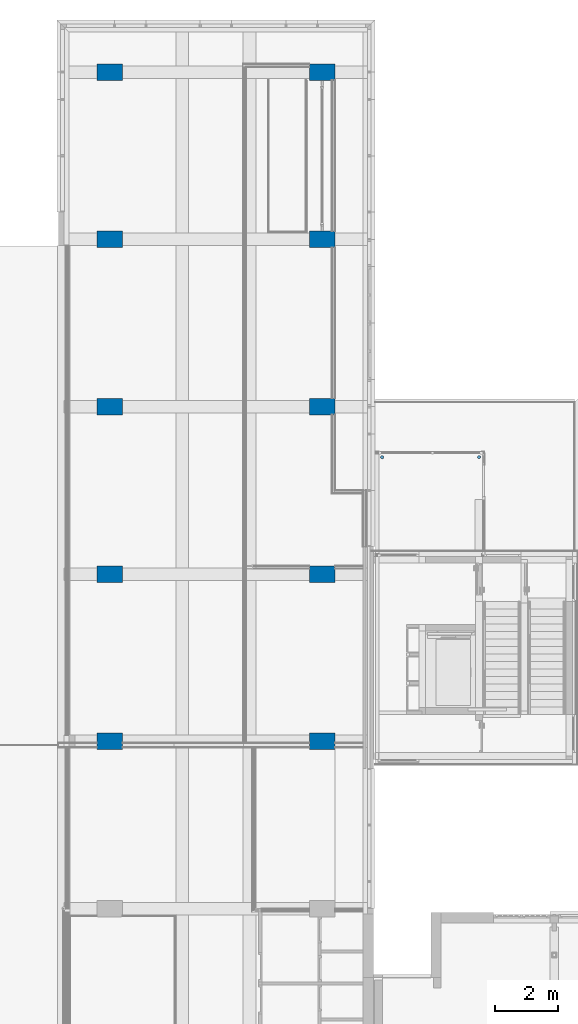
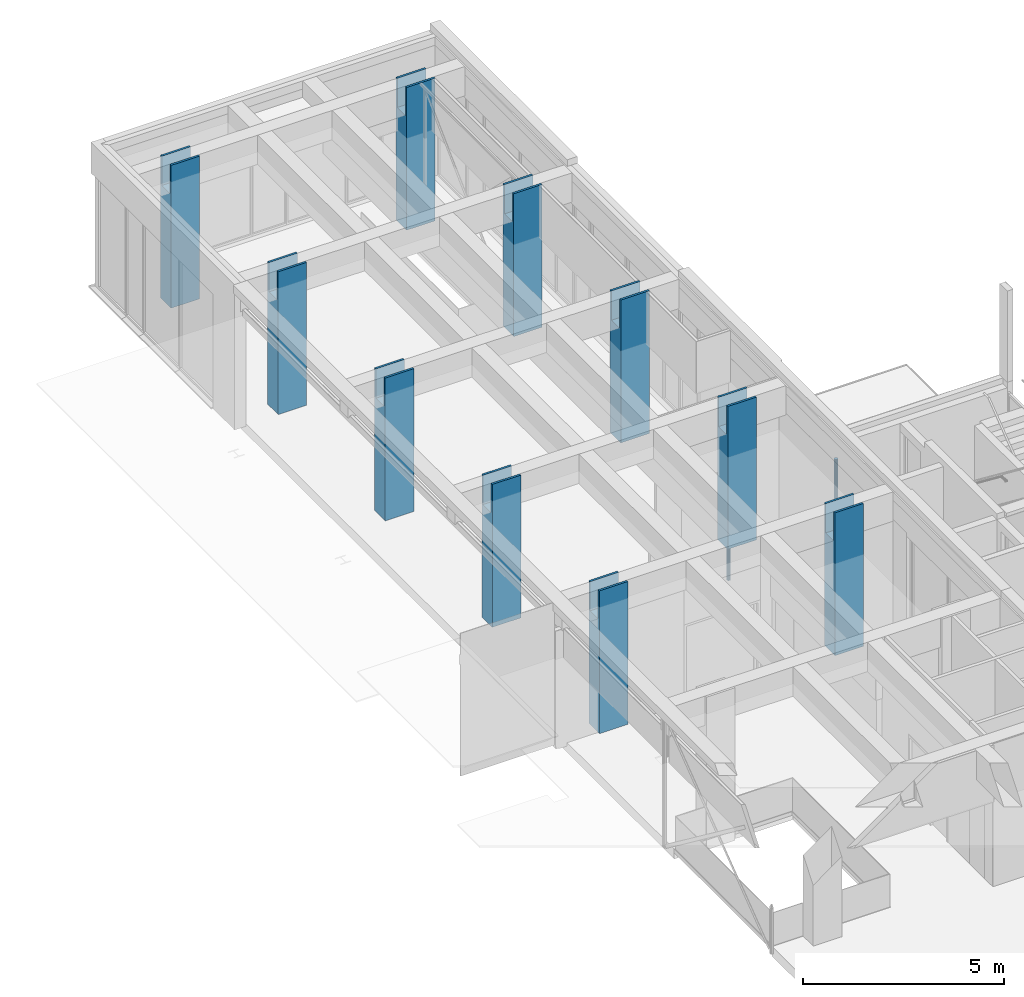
# One storey, part 19 of 117: 12 columns.
"""IFC2X3 building model written with IfcOpenShell, lengths in millimetres."""

from ifc_helpers import new_model, entity, si_unit, converted_unit, derived_unit, money_unit, direction, frame, origin_with_axes, place, context, subcontext, project, spatial, faceted_brep, material, type_object, element, save


model = new_model("IFC2X3")

# Units and contexts
model_context = context("Model", 3, precision=0.01, world=origin_with_axes(), true_north=direction((0.0, 1.0)))
body_context = subcontext(model_context, "Body", "Model", "MODEL_VIEW")
ifc_project = project(units=[si_unit("LENGTHUNIT", "METRE", prefix="MILLI"), si_unit("AREAUNIT", "SQUARE_METRE"), si_unit("VOLUMEUNIT", "CUBIC_METRE"), converted_unit("PLANEANGLEUNIT", "DEGREE", entity("IfcPlaneAngleMeasure", 0.0174532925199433), si_unit("PLANEANGLEUNIT", "RADIAN"), dimensions=[0, 0, 0, 0, 0, 0, 0]), money_unit("EUR"), converted_unit("TIMEUNIT", "Year", entity("IfcTimeMeasure", 31557600.0), si_unit("TIMEUNIT", "SECOND"), dimensions=[0, 0, 1, 0, 0, 0, 0]), si_unit("MASSUNIT", "GRAM", prefix="KILO"), si_unit("THERMODYNAMICTEMPERATUREUNIT", "DEGREE_CELSIUS"), si_unit("LUMINOUSINTENSITYUNIT", "LUMEN"), si_unit("ENERGYUNIT", "JOULE", prefix="MEGA"), derived_unit("THERMALCONDUCTANCEUNIT", [(si_unit("POWERUNIT", "WATT"), 1), (si_unit("LENGTHUNIT", "METRE"), -1), (si_unit("THERMODYNAMICTEMPERATUREUNIT", "KELVIN"), -1)]), derived_unit("SPECIFICHEATCAPACITYUNIT", [(si_unit("ENERGYUNIT", "JOULE"), 1), (si_unit("MASSUNIT", "GRAM", prefix="KILO"), -1), (si_unit("THERMODYNAMICTEMPERATUREUNIT", "KELVIN"), -1)]), derived_unit("MASSDENSITYUNIT", [(si_unit("MASSUNIT", "GRAM", prefix="KILO"), 1), (si_unit("VOLUMEUNIT", "CUBIC_METRE"), -1)])], contexts=[model_context])

# Site, building, storey
site_placement = place(None, origin_with_axes())
site = spatial("IfcSite", under=ifc_project, at=site_placement, Name="Site", CompositionType="ELEMENT")
building_placement = place(site_placement, origin_with_axes())
building = spatial("IfcBuilding", under=site, at=building_placement, Name="Naam gebouw", CompositionType="ELEMENT")
storey_placement = place(building_placement, frame((0.0, 0.0, 4150.0), z_axis=(0.0, 0.0, 1.0), x_axis=(1.0, 0.0, 0.0)))
storey = spatial("IfcBuildingStorey", under=building, at=storey_placement, Name="1e verdieping N", CompositionType="ELEMENT", Elevation=4150.0)

# Columns
ifc_material_1 = material(Name="ALG - CONSTRUCTIEF")
column_type_1 = type_object("IfcColumnType", Name="ALG - CONSTRUCTIEF 525 x 820", PredefinedType="COLUMN")
column_1_placement = place(storey_placement, frame((21836.0, 54605.9124251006, -99.99999999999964), z_axis=(0.0, 0.0, 1.0), x_axis=(0.0, -1.0, 0.0)))
element("IfcColumn", 1, at=column_1_placement, inside=storey, type_object=column_type_1, material=ifc_material_1, Name="_Kolom-x", ObjectType="COLUMN", context=body_context, shape_type="Brep", body=[
    faceted_brep([(-262.5000000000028, -410.0000000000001, 4439.999999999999), (-200.0000000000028, -410.0000000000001, 4439.999999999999), (-200.0000000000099, 410.0000000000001, 4439.999999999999), (-262.5000000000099, 410.0000000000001, 4439.999999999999), (200.0000000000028, -410.0000000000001, 3550.0), (-200.0000000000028, -410.0000000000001, 3550.0), (-262.5000000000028, -410.0000000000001, 99.99999999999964), (262.5000000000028, -410.0000000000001, 99.99999999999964), (262.5000000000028, -410.0000000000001, 4439.999999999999), (200.0000000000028, -410.0000000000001, 4439.999999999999), (-200.0000000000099, 410.0000000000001, 3550.0), (199.9999999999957, 410.0000000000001, 3550.0), (199.9999999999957, 410.0000000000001, 4439.999999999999), (262.4999999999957, 410.0000000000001, 4439.999999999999), (262.4999999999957, 410.0000000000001, 99.99999999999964), (-262.5000000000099, 410.0000000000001, 99.99999999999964)], [[[0, 1, 2, 3]], [[4, 5, 1, 0, 6, 7, 8, 9]], [[5, 10, 2, 1]], [[10, 11, 12, 13, 14, 15, 3, 2]], [[0, 3, 15, 6]], [[4, 11, 10, 5]], [[14, 7, 6, 15]], [[13, 8, 7, 14]], [[13, 12, 9, 8]], [[4, 9, 12, 11]]]),
])
column_2_placement = place(storey_placement, frame((28605.99999999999, 54605.9124251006, -99.99999999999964), z_axis=(0.0, 0.0, 1.0), x_axis=(0.0, -1.0, 0.0)))
element("IfcColumn", 2, at=column_2_placement, inside=storey, type_object=column_type_1, material=ifc_material_1, Name="_Kolom-x", ObjectType="COLUMN", context=body_context, shape_type="Brep", body=[
    faceted_brep([(-262.5000000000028, -410.0000000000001, 4439.999999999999), (-200.0000000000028, -410.0000000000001, 4439.999999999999), (-200.0000000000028, 410.0000000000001, 4439.999999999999), (-262.5000000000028, 410.0000000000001, 4439.999999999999), (200.0000000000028, -410.0000000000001, 3550.0), (-200.0000000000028, -410.0000000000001, 3550.0), (-262.5000000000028, -410.0000000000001, 99.99999999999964), (262.5000000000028, -410.0000000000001, 99.99999999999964), (262.5000000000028, -410.0000000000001, 4439.999999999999), (200.0000000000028, -410.0000000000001, 4439.999999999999), (-200.0000000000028, 410.0000000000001, 3550.0), (200.0000000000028, 410.0000000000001, 3550.0), (200.0000000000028, 410.0000000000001, 4439.999999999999), (262.5000000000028, 410.0000000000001, 4439.999999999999), (262.5000000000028, 410.0000000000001, 99.99999999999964), (-262.5000000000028, 410.0000000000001, 99.99999999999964)], [[[0, 1, 2, 3]], [[4, 5, 1, 0, 6, 7, 8, 9]], [[5, 10, 2, 1]], [[10, 11, 12, 13, 14, 15, 3, 2]], [[0, 3, 15, 6]], [[4, 11, 10, 5]], [[14, 7, 6, 15]], [[13, 8, 7, 14]], [[13, 12, 9, 8]], [[4, 9, 12, 11]]]),
])
column_3_placement = place(storey_placement, frame((21836.0, 49275.9124251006, -99.99999999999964), z_axis=(0.0, 0.0, 1.0), x_axis=(0.0, -1.0, 0.0)))
element("IfcColumn", 3, at=column_3_placement, inside=storey, type_object=column_type_1, material=ifc_material_1, Name="_Kolom-x", ObjectType="COLUMN", context=body_context, shape_type="Brep", body=[
    faceted_brep([(-262.5000000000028, -410.0000000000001, 4439.999999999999), (-200.0000000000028, -410.0000000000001, 4439.999999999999), (-200.0000000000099, 410.0000000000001, 4439.999999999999), (-262.5000000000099, 410.0000000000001, 4439.999999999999), (200.0000000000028, -410.0000000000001, 3550.0), (-200.0000000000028, -410.0000000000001, 3550.0), (-262.5000000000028, -410.0000000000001, 99.99999999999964), (262.5000000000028, -410.0000000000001, 99.99999999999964), (262.5000000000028, -410.0000000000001, 4439.999999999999), (199.9999535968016, -410.0000000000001, 4439.999999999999), (-200.0000000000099, 410.0000000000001, 3550.0), (199.9999999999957, 410.0000000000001, 3550.0), (199.9999580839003, 410.0000000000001, 4439.999999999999), (262.4999999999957, 410.0000000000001, 4439.999999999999), (262.4999999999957, 410.0000000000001, 99.99999999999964), (-262.5000000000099, 410.0000000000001, 99.99999999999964)], [[[0, 1, 2, 3]], [[4, 5, 1, 0, 6, 7, 8, 9]], [[5, 10, 2, 1]], [[10, 11, 12, 13, 14, 15, 3, 2]], [[0, 3, 15, 6]], [[4, 11, 10, 5]], [[14, 7, 6, 15]], [[13, 8, 7, 14]], [[13, 12, 9, 8]], [[4, 9, 12, 11]]]),
])
column_4_placement = place(storey_placement, frame((21836.0, 38615.91242510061, -99.99999999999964), z_axis=(0.0, 0.0, 1.0), x_axis=(0.0, -1.0, 0.0)))
element("IfcColumn", 4, at=column_4_placement, inside=storey, type_object=column_type_1, material=ifc_material_1, Name="_Kolom-x", ObjectType="COLUMN", context=body_context, shape_type="Brep", body=[
    faceted_brep([(-262.5000000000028, -410.0000000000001, 4439.999999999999), (-200.0000000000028, -410.0000000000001, 4439.999999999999), (-200.0000000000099, 410.0000000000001, 4439.999999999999), (-262.5000000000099, 410.0000000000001, 4439.999999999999), (200.0000000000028, -410.0000000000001, 3550.0), (-200.0000000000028, -410.0000000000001, 3550.0), (-262.5000000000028, -410.0000000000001, 99.99999999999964), (262.5000000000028, -410.0000000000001, 99.99999999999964), (262.5000000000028, -410.0000000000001, 4439.999999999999), (200.0000000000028, -410.0000000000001, 4439.999999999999), (-200.0000000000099, 410.0000000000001, 3550.0), (199.9999999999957, 410.0000000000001, 3550.0), (199.9999999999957, 410.0000000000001, 4439.999999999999), (262.4999999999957, 410.0000000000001, 4439.999999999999), (262.4999999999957, 410.0000000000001, 99.99999999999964), (-262.5000000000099, 410.0000000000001, 99.99999999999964)], [[[0, 1, 2, 3]], [[4, 5, 1, 0, 6, 7, 8, 9]], [[5, 10, 2, 1]], [[10, 11, 12, 13, 14, 15, 3, 2]], [[0, 3, 15, 6]], [[4, 11, 10, 5]], [[14, 7, 6, 15]], [[13, 8, 7, 14]], [[13, 12, 9, 8]], [[4, 9, 12, 11]]]),
])
column_5_placement = place(storey_placement, frame((28605.99999999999, 33285.91242510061, -99.99999999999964), z_axis=(0.0, 0.0, 1.0), x_axis=(0.0, -1.0, 0.0)))
element("IfcColumn", 5, at=column_5_placement, inside=storey, type_object=column_type_1, material=ifc_material_1, Name="_Kolom-x", ObjectType="COLUMN", context=body_context, shape_type="Brep", body=[
    faceted_brep([(-262.5000000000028, -410.0000000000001, 4439.999999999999), (-200.0000000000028, -410.0000000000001, 4439.999999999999), (-200.0000000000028, 410.0000000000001, 4439.999999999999), (-262.5000000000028, 410.0000000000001, 4439.999999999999), (200.0000000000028, -409.9999999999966, 3549.999999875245), (-200.0000000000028, -410.0000000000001, 3549.999999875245), (-262.5000000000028, -410.0000000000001, 99.99999999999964), (262.5000000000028, -409.9999999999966, 99.99999999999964), (262.5000000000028, -409.9999999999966, 4439.999999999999), (200.0000000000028, -409.9999999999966, 4439.999999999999), (-200.0000000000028, 410.0000000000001, 3549.999999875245), (200.0000000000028, 410.0000000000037, 3549.999999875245), (200.0000000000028, 410.0000000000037, 4439.999999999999), (262.5000000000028, 410.0000000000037, 4439.999999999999), (262.5000000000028, 410.0000000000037, 99.99999999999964), (-262.5000000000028, 410.0000000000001, 99.99999999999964)], [[[0, 1, 2, 3]], [[4, 5, 1, 0, 6, 7, 8, 9]], [[5, 10, 2, 1]], [[10, 11, 12, 13, 14, 15, 3, 2]], [[0, 3, 15, 6]], [[4, 11, 10, 5]], [[14, 7, 6, 15]], [[13, 8, 7, 14]], [[13, 12, 9, 8]], [[4, 9, 12, 11]]]),
])
column_6_placement = place(storey_placement, frame((21836.0, 33285.91242510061, -99.99999999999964), z_axis=(0.0, 0.0, 1.0), x_axis=(0.0, -1.0, 0.0)))
element("IfcColumn", 6, at=column_6_placement, inside=storey, type_object=column_type_1, material=ifc_material_1, Name="_Kolom-x", ObjectType="COLUMN", context=body_context, shape_type="Brep", body=[
    faceted_brep([(-262.5000000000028, -410.0000000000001, 4439.999999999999), (-200.0000000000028, -410.0000000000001, 4439.999999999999), (-200.0000000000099, 410.0000000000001, 4439.999999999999), (-262.5000000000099, 410.0000000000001, 4439.999999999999), (200.0000000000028, -409.9999999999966, 3549.999999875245), (-200.0000000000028, -410.0000000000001, 3549.999999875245), (-262.5000000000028, -410.0000000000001, 99.99999999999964), (262.5000000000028, -409.9999999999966, 99.99999999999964), (262.5000000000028, -409.9999999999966, 4439.999999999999), (200.0000000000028, -409.9999999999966, 4439.999999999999), (-200.0000000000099, 410.0000000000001, 3549.999999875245), (199.9999999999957, 410.0000000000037, 3549.999999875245), (199.9999999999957, 410.0000000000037, 4439.999999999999), (262.4999999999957, 410.0000000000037, 4439.999999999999), (262.4999999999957, 410.0000000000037, 99.99999999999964), (-262.5000000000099, 410.0000000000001, 99.99999999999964)], [[[0, 1, 2, 3]], [[4, 5, 1, 0, 6, 7, 8, 9]], [[5, 10, 2, 1]], [[10, 11, 12, 13, 14, 15, 3, 2]], [[0, 3, 15, 6]], [[4, 11, 10, 5]], [[14, 7, 6, 15]], [[13, 8, 7, 14]], [[13, 12, 9, 8]], [[4, 9, 12, 11]]]),
])
column_7_placement = place(storey_placement, frame((28605.99999999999, 38615.91242510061, -99.99999999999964), z_axis=(0.0, 0.0, 1.0), x_axis=(0.0, -1.0, 0.0)))
element("IfcColumn", 7, at=column_7_placement, inside=storey, type_object=column_type_1, material=ifc_material_1, Name="_Kolom-x", ObjectType="COLUMN", context=body_context, shape_type="Brep", body=[
    faceted_brep([(-262.5000000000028, -410.0000000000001, 4439.999999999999), (-200.0000000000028, -410.0000000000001, 4439.999999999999), (-200.0000000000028, 410.0000000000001, 4439.999999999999), (-262.5000000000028, 410.0000000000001, 4439.999999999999), (200.0000000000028, -410.0000000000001, 3550.0), (-200.0000000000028, -410.0000000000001, 3550.0), (-262.5000000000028, -410.0000000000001, 99.99999999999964), (262.5000000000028, -410.0000000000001, 99.99999999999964), (262.5000000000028, -410.0000000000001, 4439.999999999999), (199.9999999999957, -410.0000000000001, 4439.999999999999), (-200.0000000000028, 410.0000000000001, 3550.0), (200.0000000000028, 410.0000000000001, 3550.0), (199.9999999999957, 410.0000000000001, 4439.999999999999), (262.5000000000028, 410.0000000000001, 4439.999999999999), (262.5000000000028, 410.0000000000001, 99.99999999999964), (-262.5000000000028, 410.0000000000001, 99.99999999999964)], [[[0, 1, 2, 3]], [[4, 5, 1, 0, 6, 7, 8, 9]], [[5, 10, 2, 1]], [[10, 11, 12, 13, 14, 15, 3, 2]], [[0, 3, 15, 6]], [[4, 11, 10, 5]], [[14, 7, 6, 15]], [[13, 8, 7, 14]], [[13, 12, 9, 8]], [[4, 9, 12, 11]]]),
])
column_8_placement = place(storey_placement, frame((21836.0, 43945.9124251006, -99.99999999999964), z_axis=(0.0, 0.0, 1.0), x_axis=(0.0, -1.0, 0.0)))
element("IfcColumn", 8, at=column_8_placement, inside=storey, type_object=column_type_1, material=ifc_material_1, Name="_Kolom-x", ObjectType="COLUMN", context=body_context, shape_type="Brep", body=[
    faceted_brep([(-262.5000000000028, -410.0000000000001, 4439.999999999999), (-200.0000000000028, -410.0000000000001, 4439.999999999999), (-200.0000000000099, 410.0000000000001, 4439.999999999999), (-262.5000000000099, 410.0000000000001, 4439.999999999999), (200.0000000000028, -410.0000000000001, 3550.0), (-200.0000000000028, -410.0000000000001, 3550.0), (-262.5000000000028, -410.0000000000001, 99.99999999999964), (262.5000000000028, -410.0000000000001, 99.99999999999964), (262.5000000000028, -410.0000000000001, 4439.999999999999), (200.0000000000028, -410.0000000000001, 4439.999999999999), (-200.0000000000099, 410.0000000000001, 3550.0), (199.9999999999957, 410.0000000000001, 3550.0), (199.9999999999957, 410.0000000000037, 4439.999999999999), (262.4999999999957, 410.0000000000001, 4439.999999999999), (262.4999999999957, 410.0000000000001, 99.99999999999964), (-262.5000000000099, 410.0000000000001, 99.99999999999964)], [[[0, 1, 2, 3]], [[4, 5, 1, 0, 6, 7, 8, 9]], [[5, 10, 2, 1]], [[10, 11, 12, 13, 14, 15, 3, 2]], [[0, 3, 15, 6]], [[4, 11, 10, 5]], [[14, 7, 6, 15]], [[13, 8, 7, 14]], [[13, 12, 9, 8]], [[4, 9, 12, 11]]]),
])
column_9_placement = place(storey_placement, frame((28605.99999999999, 43945.9124251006, -99.99999999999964), z_axis=(0.0, 0.0, 1.0), x_axis=(0.0, -1.0, 0.0)))
element("IfcColumn", 9, at=column_9_placement, inside=storey, type_object=column_type_1, material=ifc_material_1, Name="_Kolom-x", ObjectType="COLUMN", context=body_context, shape_type="Brep", body=[
    faceted_brep([(-262.5000000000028, -410.0000000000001, 4439.999999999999), (-200.0000000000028, -410.0000000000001, 4439.999999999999), (-200.0000000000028, 410.0000000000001, 4439.999999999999), (-262.5000000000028, 410.0000000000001, 4439.999999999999), (200.0000000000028, -410.0000000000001, 3550.0), (-200.0000000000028, -410.0000000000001, 3550.0), (-262.5000000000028, -410.0000000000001, 99.99999999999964), (262.5000000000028, -410.0000000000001, 99.99999999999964), (262.5000000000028, -410.0000000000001, 4439.999999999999), (200.0000000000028, -410.0000000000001, 4439.999999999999), (-200.0000000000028, 410.0000000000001, 3550.0), (200.0000000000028, 410.0000000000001, 3550.0), (200.0000000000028, 410.0000000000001, 4439.999999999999), (262.5000000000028, 410.0000000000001, 4439.999999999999), (262.5000000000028, 410.0000000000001, 99.99999999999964), (-262.5000000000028, 410.0000000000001, 99.99999999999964)], [[[0, 1, 2, 3]], [[4, 5, 1, 0, 6, 7, 8, 9]], [[5, 10, 2, 1]], [[10, 11, 12, 13, 14, 15, 3, 2]], [[0, 3, 15, 6]], [[4, 11, 10, 5]], [[14, 7, 6, 15]], [[13, 8, 7, 14]], [[13, 12, 9, 8]], [[4, 9, 12, 11]]]),
])
column_10_placement = place(storey_placement, frame((28605.99999999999, 49275.9124251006, -99.99999999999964), z_axis=(0.0, 0.0, 1.0), x_axis=(0.0, -1.0, 0.0)))
element("IfcColumn", 10, at=column_10_placement, inside=storey, type_object=column_type_1, material=ifc_material_1, Name="_Kolom-x", ObjectType="COLUMN", context=body_context, shape_type="Brep", body=[
    faceted_brep([(-262.5000000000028, -410.0000000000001, 4439.999999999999), (-200.0000000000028, -410.0000000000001, 4439.999999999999), (-200.0000000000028, 410.0000000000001, 4439.999999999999), (-262.5000000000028, 410.0000000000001, 4439.999999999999), (200.0000000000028, -410.0000000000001, 3550.0), (-200.0000000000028, -410.0000000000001, 3550.0), (-262.5000000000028, -410.0000000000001, 99.99999999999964), (262.5000000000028, -410.0000000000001, 99.99999999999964), (262.5000000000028, -410.0000000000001, 4439.999999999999), (199.9999906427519, -410.0000000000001, 4439.999999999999), (-200.0000000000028, 410.0000000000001, 3550.0), (200.0000000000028, 410.0000000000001, 3550.0), (199.9999951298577, 410.0000000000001, 4439.999999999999), (262.5000000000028, 410.0000000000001, 4439.999999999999), (262.5000000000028, 410.0000000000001, 99.99999999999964), (-262.5000000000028, 410.0000000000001, 99.99999999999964)], [[[0, 1, 2, 3]], [[4, 5, 1, 0, 6, 7, 8, 9]], [[5, 10, 2, 1]], [[10, 11, 12, 13, 14, 15, 3, 2]], [[0, 3, 15, 6]], [[4, 11, 10, 5]], [[14, 7, 6, 15]], [[13, 8, 7, 14]], [[13, 12, 9, 8]], [[4, 9, 12, 11]]]),
])
ifc_material_2 = material(Name="staal geanodiseerd RAL 7024")
column_type_2 = type_object("IfcColumnType", Name="Kolom r80mm1:Kolom r80mm", PredefinedType="COLUMN")
column_11_placement = place(storey_placement, frame((33605.00000000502, 42337.4124263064, -4150.000000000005), z_axis=(0.0, 0.0, 1.0), x_axis=(0.0, 1.0, 0.0)))
element("IfcColumn", 11, at=column_11_placement, inside=storey, type_object=column_type_2, material=ifc_material_2, Name="Kolom r80mm1:Kolom r80mm", ObjectType="COLUMN", context=body_context, shape_type="Brep", body=[
    faceted_brep([(-49.99999999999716, 0.0, 2599.999999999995), (-49.99999999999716, 0.0, 0.0), (-46.19397662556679, -19.13417161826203, 0.0), (-46.19397662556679, -19.13417161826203, 2599.999999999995), (-46.19397662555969, 19.13417161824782, 2599.999999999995), (-46.19397662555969, 19.13417161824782, 0.0), (-35.35533905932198, 35.35533905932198, 0.0), (-19.13417161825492, 46.19397662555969, 0.0), (0.0, 49.99999999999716, 0.0), (19.13417161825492, 46.19397662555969, 0.0), (35.35533905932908, 35.35533905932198, 0.0), (46.19397662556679, 19.13417161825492, 0.0), (49.99999999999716, 0.0, 0.0), (46.19397662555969, -19.13417161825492, 0.0), (35.35533905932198, -35.35533905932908, 0.0), (19.13417161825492, -46.19397662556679, 0.0), (0.0, -49.99999999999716, 0.0), (-19.13417161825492, -46.19397662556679, 0.0), (-35.35533905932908, -35.35533905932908, 0.0), (-35.35533905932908, -35.35533905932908, 2599.999999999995), (-19.13417161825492, -46.19397662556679, 2599.999999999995), (0.0, -49.99999999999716, 2599.999999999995), (19.13417161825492, -46.19397662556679, 2599.999999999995), (35.35533905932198, -35.35533905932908, 2599.999999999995), (46.19397662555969, -19.13417161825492, 2599.999999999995), (49.99999999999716, 0.0, 2599.999999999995), (46.19397662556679, 19.13417161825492, 2599.999999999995), (35.35533905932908, 35.35533905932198, 2599.999999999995), (19.13417161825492, 46.19397662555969, 2599.999999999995), (0.0, 49.99999999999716, 2599.999999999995), (-19.13417161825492, 46.19397662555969, 2599.999999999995), (-35.35533905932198, 35.35533905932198, 2599.999999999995)], [[[0, 1, 2, 3]], [[4, 5, 1, 0]], [[2, 1, 5, 6, 7, 8, 9, 10, 11, 12, 13, 14, 15, 16, 17, 18]], [[3, 2, 18, 19]], [[4, 0, 3, 19, 20, 21, 22, 23, 24, 25, 26, 27, 28, 29, 30, 31]], [[31, 6, 5, 4]], [[30, 7, 6, 31]], [[29, 8, 7, 30]], [[28, 9, 8, 29]], [[27, 10, 9, 28]], [[26, 11, 10, 27]], [[25, 12, 11, 26]], [[24, 13, 12, 25]], [[23, 14, 13, 24]], [[22, 15, 14, 23]], [[21, 16, 15, 22]], [[20, 17, 16, 21]], [[19, 18, 17, 20]]]),
])
column_type_3 = type_object("IfcColumnType", Name="Kolom r80mm:Kolom r80mm", PredefinedType="COLUMN")
column_12_placement = place(storey_placement, frame((30518.00000003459, 42337.4124263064, -4150.000000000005), z_axis=(0.0, 0.0, 1.0), x_axis=(0.0, 1.0, 0.0)))
element("IfcColumn", 12, at=column_12_placement, inside=storey, type_object=column_type_3, material=ifc_material_2, Name="Kolom r80mm:Kolom r80mm", ObjectType="COLUMN", context=body_context, shape_type="Brep", body=[
    faceted_brep([(-49.99999999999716, 0.0, 2599.999999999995), (-49.99999999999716, 0.0, 0.0), (-46.19397662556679, -19.13417161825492, 0.0), (-46.19397662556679, -19.13417161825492, 2599.999999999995), (-46.19397662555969, 19.13417161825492, 2599.999999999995), (-46.19397662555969, 19.13417161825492, 0.0), (-35.35533905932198, 35.35533905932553, 0.0), (-19.13417161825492, 46.19397662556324, 0.0), (0.0, 50.00000000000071, 0.0), (19.13417161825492, 46.19397662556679, 0.0), (35.35533905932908, 35.35533905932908, 0.0), (46.19397662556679, 19.13417161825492, 0.0), (49.99999999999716, 0.0, 0.0), (46.19397662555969, -19.13417161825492, 0.0), (35.35533905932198, -35.35533905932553, 0.0), (19.13417161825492, -46.19397662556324, 0.0), (0.0, -50.00000000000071, 0.0), (-19.13417161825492, -46.19397662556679, 0.0), (-35.35533905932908, -35.35533905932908, 0.0), (-35.35533905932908, -35.35533905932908, 2599.999999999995), (-19.13417161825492, -46.19397662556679, 2599.999999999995), (0.0, -50.00000000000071, 2599.999999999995), (19.13417161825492, -46.19397662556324, 2599.999999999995), (35.35533905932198, -35.35533905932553, 2599.999999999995), (46.19397662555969, -19.13417161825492, 2599.999999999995), (49.99999999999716, 0.0, 2599.999999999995), (46.19397662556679, 19.13417161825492, 2599.999999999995), (35.35533905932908, 35.35533905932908, 2599.999999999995), (19.13417161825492, 46.19397662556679, 2599.999999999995), (0.0, 50.00000000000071, 2599.999999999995), (-19.13417161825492, 46.19397662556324, 2599.999999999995), (-35.35533905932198, 35.35533905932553, 2599.999999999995)], [[[0, 1, 2, 3]], [[4, 5, 1, 0]], [[2, 1, 5, 6, 7, 8, 9, 10, 11, 12, 13, 14, 15, 16, 17, 18]], [[3, 2, 18, 19]], [[4, 0, 3, 19, 20, 21, 22, 23, 24, 25, 26, 27, 28, 29, 30, 31]], [[31, 6, 5, 4]], [[30, 7, 6, 31]], [[29, 8, 7, 30]], [[28, 9, 8, 29]], [[27, 10, 9, 28]], [[26, 11, 10, 27]], [[25, 12, 11, 26]], [[24, 13, 12, 25]], [[23, 14, 13, 24]], [[22, 15, 14, 23]], [[21, 16, 15, 22]], [[20, 17, 16, 21]], [[19, 18, 17, 20]]]),
])

save(model, "model.ifc")
